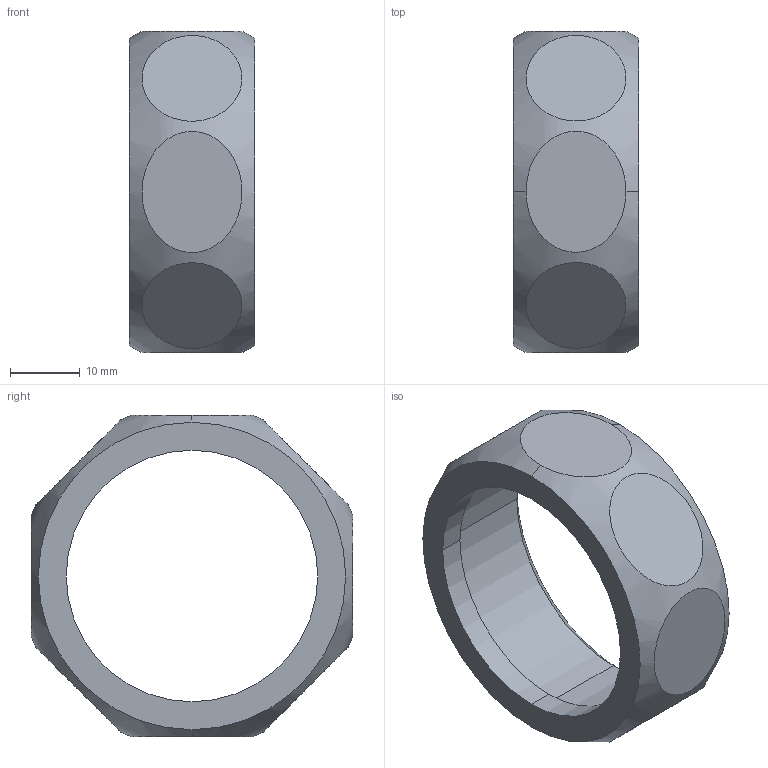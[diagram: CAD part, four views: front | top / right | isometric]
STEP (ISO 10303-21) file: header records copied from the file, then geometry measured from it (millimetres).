
FILE_DESCRIPTION((''),'2;1');
FILE_NAME('\\Lg50001\Groups\SANHA Legnica\Engineering\Public\Pajchrowski\projekty\8000 models\4374\4374 step\4374_114.stp','2008-05-09T14:43:24',('pajchrowski'),(''),'Autodesk Inventor 2008','Autodesk Inventor 2008','');
FILE_SCHEMA(('AUTOMOTIVE_DESIGN { 1 0 10303 214 1 1 1 1 }'));
Length unit declared in the file: millimetre
Products named in the file (1): 4374_114
Bounding box: 18 x 46 x 46 mm (x, y, z)
Volume: 9687.4 mm3; surface area: 5832.8 mm2
Topology: 1 solids, 1 shells, 25 faces, 52 edges, 36 vertices
Faces by surface type: plane 11, cylinder 8, cone 4, bspline 2
Entity records: 1126 total; most frequent: CARTESIAN_POINT 566, DIRECTION 112, ORIENTED_EDGE 104, EDGE_CURVE 52, AXIS2_PLACEMENT_3D 50, VERTEX_POINT 36, EDGE_LOOP 34, CIRCLE 26
